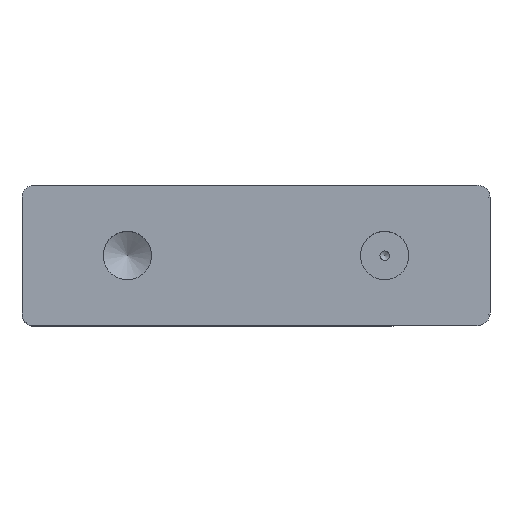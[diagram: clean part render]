
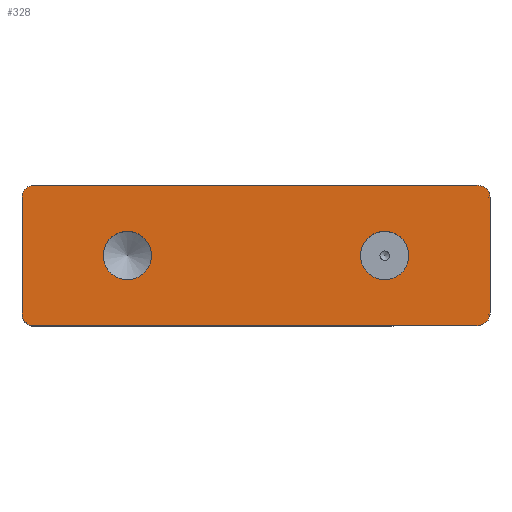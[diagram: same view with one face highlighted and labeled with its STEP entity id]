
A CAD part, top view. The second image highlights one B-rep face of the part: STEP entity #328.
In plain terms, the highlighted planar face has unit normal (0, 0, 1).
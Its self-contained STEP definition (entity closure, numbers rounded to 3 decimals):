
#328 = ADVANCED_FACE( '', ( #703, #704, #705 ), #706, .T. );
#703 = FACE_BOUND( '', #1360, .T. );
#704 = FACE_BOUND( '', #1361, .T. );
#705 = FACE_OUTER_BOUND( '', #1362, .T. );
#706 = PLANE( '', #1363 );
#1360 = EDGE_LOOP( '', ( #2396 ) );
#1361 = EDGE_LOOP( '', ( #2397 ) );
#1362 = EDGE_LOOP( '', ( #2398, #2399, #2400, #2401, #2402, #2403, #2404, #2405 ) );
#1363 = AXIS2_PLACEMENT_3D( '', #2406, #2407, #2408 );
#2396 = ORIENTED_EDGE( '', *, *, #3025, .T. );
#2397 = ORIENTED_EDGE( '', *, *, #3133, .T. );
#2398 = ORIENTED_EDGE( '', *, *, #2978, .T. );
#2399 = ORIENTED_EDGE( '', *, *, #2843, .T. );
#2400 = ORIENTED_EDGE( '', *, *, #3142, .T. );
#2401 = ORIENTED_EDGE( '', *, *, #3050, .T. );
#2402 = ORIENTED_EDGE( '', *, *, #3150, .T. );
#2403 = ORIENTED_EDGE( '', *, *, #3151, .T. );
#2404 = ORIENTED_EDGE( '', *, *, #2891, .T. );
#2405 = ORIENTED_EDGE( '', *, *, #2848, .T. );
#2406 = CARTESIAN_POINT( '', ( 0., 0., 50. ) );
#2407 = DIRECTION( '', ( 0., 0., 1. ) );
#2408 = DIRECTION( '', ( 1., 0., 0. ) );
#2843 = EDGE_CURVE( '', #3308, #3309, #3310, .T. );
#2848 = EDGE_CURVE( '', #3316, #3317, #3318, .T. );
#2891 = EDGE_CURVE( '', #3393, #3316, #3394, .T. );
#2978 = EDGE_CURVE( '', #3317, #3308, #3525, .T. );
#3025 = EDGE_CURVE( '', #3588, #3588, #3589, .T. );
#3050 = EDGE_CURVE( '', #3622, #3623, #3624, .T. );
#3133 = EDGE_CURVE( '', #3728, #3728, #3729, .T. );
#3142 = EDGE_CURVE( '', #3309, #3622, #3741, .T. );
#3150 = EDGE_CURVE( '', #3623, #3750, #3751, .T. );
#3151 = EDGE_CURVE( '', #3750, #3393, #3752, .T. );
#3308 = VERTEX_POINT( '', #3981 );
#3309 = VERTEX_POINT( '', #3982 );
#3310 = CIRCLE( '', #3983, 1. );
#3316 = VERTEX_POINT( '', #3991 );
#3317 = VERTEX_POINT( '', #3992 );
#3318 = CIRCLE( '', #3993, 1. );
#3393 = VERTEX_POINT( '', #4112 );
#3394 = LINE( '', #4113, #4114 );
#3525 = LINE( '', #4387, #4388 );
#3588 = VERTEX_POINT( '', #4480 );
#3589 = CIRCLE( '', #4481, 2.067 );
#3622 = VERTEX_POINT( '', #4524 );
#3623 = VERTEX_POINT( '', #4525 );
#3624 = ELLIPSE( '', #4526, 1.118, 1. );
#3728 = VERTEX_POINT( '', #4653 );
#3729 = CIRCLE( '', #4654, 2.067 );
#3741 = LINE( '', #4669, #4670 );
#3750 = VERTEX_POINT( '', #4682 );
#3751 = LINE( '', #4683, #4684 );
#3752 = ELLIPSE( '', #4685, 1.118, 1. );
#3981 = CARTESIAN_POINT( '', ( 0., 1., 50. ) );
#3982 = CARTESIAN_POINT( '', ( 1., 0., 50. ) );
#3983 = AXIS2_PLACEMENT_3D( '', #4876, #4877, #4878 );
#3991 = CARTESIAN_POINT( '', ( 1., 12., 50. ) );
#3992 = CARTESIAN_POINT( '', ( 0., 11., 50. ) );
#3993 = AXIS2_PLACEMENT_3D( '', #4884, #4885, #4886 );
#4112 = CARTESIAN_POINT( '', ( 38.882, 12., 50. ) );
#4113 = CARTESIAN_POINT( '', ( 40., 12., 50. ) );
#4114 = VECTOR( '', #4945, 1000. );
#4387 = CARTESIAN_POINT( '', ( 0., 12., 50. ) );
#4388 = VECTOR( '', #5058, 1000. );
#4480 = CARTESIAN_POINT( '', ( 9., 3.933, 50. ) );
#4481 = AXIS2_PLACEMENT_3D( '', #5118, #5119, #5120 );
#4524 = CARTESIAN_POINT( '', ( 38.882, 0., 50. ) );
#4525 = CARTESIAN_POINT( '', ( 40., 1., 50. ) );
#4526 = AXIS2_PLACEMENT_3D( '', #5152, #5153, #5154 );
#4653 = CARTESIAN_POINT( '', ( 31., 3.933, 50. ) );
#4654 = AXIS2_PLACEMENT_3D( '', #5274, #5275, #5276 );
#4669 = CARTESIAN_POINT( '', ( 0., 0., 50. ) );
#4670 = VECTOR( '', #5286, 1000. );
#4682 = CARTESIAN_POINT( '', ( 40., 11., 50. ) );
#4683 = CARTESIAN_POINT( '', ( 40., 0., 50. ) );
#4684 = VECTOR( '', #5296, 1000. );
#4685 = AXIS2_PLACEMENT_3D( '', #5297, #5298, #5299 );
#4876 = CARTESIAN_POINT( '', ( 1., 1., 50. ) );
#4877 = DIRECTION( '', ( 0., 0., 1. ) );
#4878 = DIRECTION( '', ( 1., 0., 0. ) );
#4884 = CARTESIAN_POINT( '', ( 1., 11., 50. ) );
#4885 = DIRECTION( '', ( 0., 0., 1. ) );
#4886 = DIRECTION( '', ( 1., 0., 0. ) );
#4945 = DIRECTION( '', ( -1., 0., 0. ) );
#5058 = DIRECTION( '', ( 0., -1., 0. ) );
#5118 = CARTESIAN_POINT( '', ( 9., 6., 50. ) );
#5119 = DIRECTION( '', ( 0., 0., -1. ) );
#5120 = DIRECTION( '', ( 0., -1., 0. ) );
#5152 = CARTESIAN_POINT( '', ( 38.882, 1., 50. ) );
#5153 = DIRECTION( '', ( 0., 0., 1. ) );
#5154 = DIRECTION( '', ( -1., 0., 0. ) );
#5274 = CARTESIAN_POINT( '', ( 31., 6., 50. ) );
#5275 = DIRECTION( '', ( 0., 0., -1. ) );
#5276 = DIRECTION( '', ( 0., -1., 0. ) );
#5286 = DIRECTION( '', ( 1., 0., 0. ) );
#5296 = DIRECTION( '', ( 0., 1., 0. ) );
#5297 = CARTESIAN_POINT( '', ( 38.882, 11., 50. ) );
#5298 = DIRECTION( '', ( 0., 0., 1. ) );
#5299 = DIRECTION( '', ( -1., 0., 0. ) );
